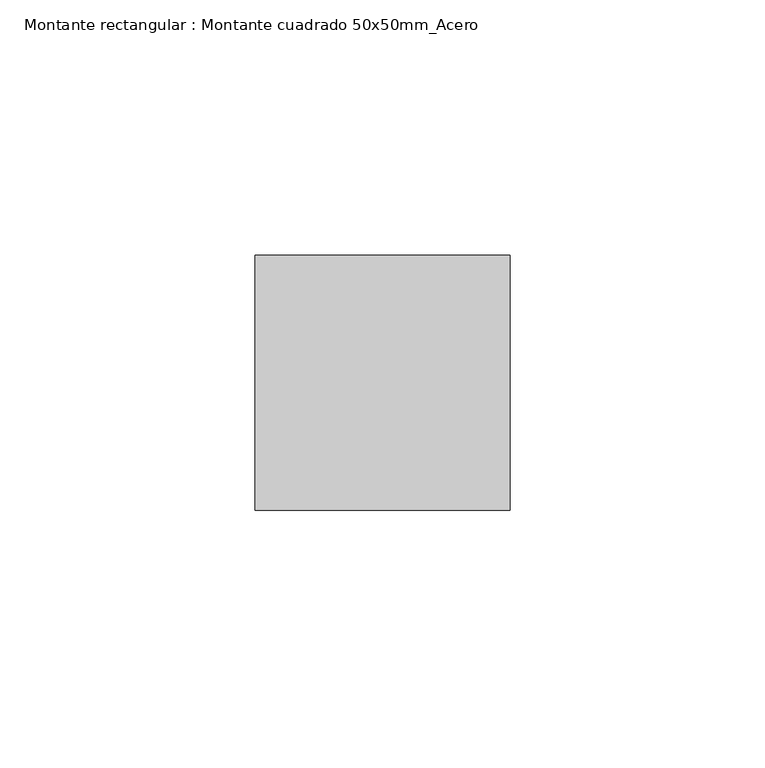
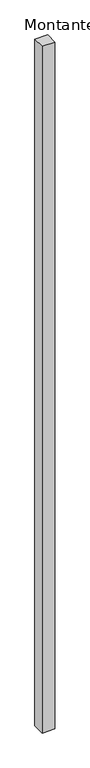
"""IFC4 building model written with IfcOpenShell, lengths in millimetres: member geometry, Montante rectangular : Montante cuadrado 50x50mm_Acero."""

from ifc_helpers import new_model, si_unit, frame, origin, place, context, project, spatial, polyline, outline, extrude, source, transform, mapped, element, save


def montante_rectangular_montante_cuadrado_50x50mm_acero_d21a557a(model_context):
    return source(origin(), model_context, "Body", "SweptSolid", [
        extrude(outline(polyline([(0.0, 0.0), (-50.0, 0.0), (-50.0, 50.0), (0.0, 50.0), (0.0, 0.0)])), frame((0.0, 0.0, -2875.0), z_axis=(0.0, 0.0, 1.0), x_axis=(1.0, 0.0, 0.0)), (0.0, 0.0, 1.0), 2875.0),
    ])


if __name__ == "__main__":
    model = new_model("IFC4")
    model_context = context("Model", 3, world=origin())
    ifc_project = project(units=[si_unit("LENGTHUNIT", "METRE", prefix="MILLI")], contexts=[model_context])
    site = spatial("IfcSite", under=ifc_project)
    building = spatial("IfcBuilding", under=site)
    placement = place(None, origin())
    montante_rectangular_montante_cuadrado_50x50mm_acero_shape = montante_rectangular_montante_cuadrado_50x50mm_acero_d21a557a(model_context)
    element("IfcMember", 1, ObjectType="Montante rectangular : Montante cuadrado 50x50mm_Acero", at=placement, inside=building, context=model_context, shape_type="MappedRepresentation", body=[
        mapped(montante_rectangular_montante_cuadrado_50x50mm_acero_shape, transform((0.0, 0.0, 0.0), x_axis=(1.0, 0.0, 0.0), y_axis=(0.0, 1.0, 0.0), z_axis=(0.0, 0.0, 1.0))),
    ])
    save(model, "model.ifc")
